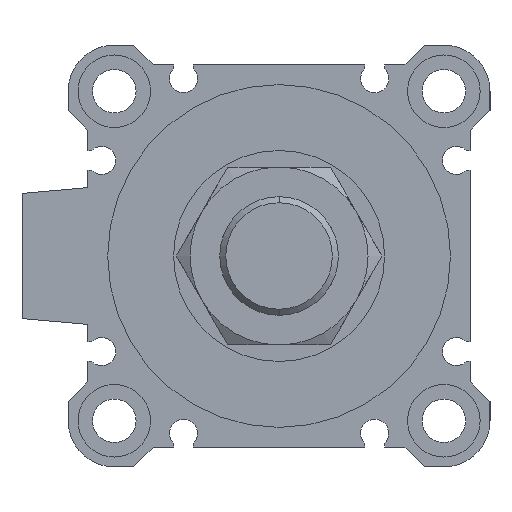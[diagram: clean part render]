
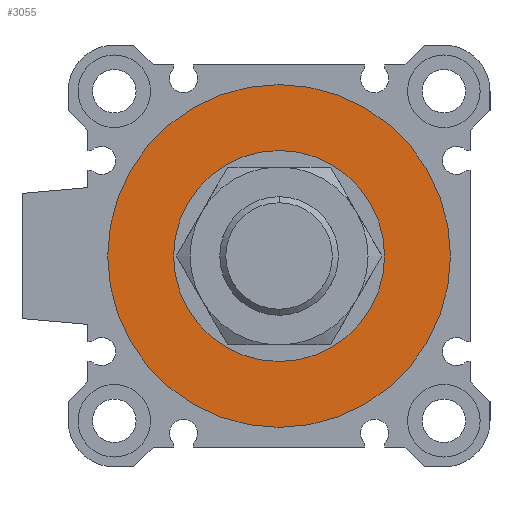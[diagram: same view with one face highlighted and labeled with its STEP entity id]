
A CAD part, left-side view. The second image highlights one B-rep face of the part: STEP entity #3055.
In plain terms, the highlighted planar face has unit normal (-1, 0, 0).
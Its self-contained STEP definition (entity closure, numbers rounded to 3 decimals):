
#6 = AXIS2_PLACEMENT_3D ( 'NONE', #7047, #2073, #5304 ) ;
#245 = CARTESIAN_POINT ( 'NONE',  ( 3., 0., 0. ) ) ;
#248 = VERTEX_POINT ( 'NONE', #4886 ) ;
#778 = CIRCLE ( 'NONE', #3928, 26. ) ;
#920 = CARTESIAN_POINT ( 'NONE',  ( 3., 0., 26. ) ) ;
#941 = PLANE ( 'NONE',  #6 ) ;
#1315 = CIRCLE ( 'NONE', #5384, 16. ) ;
#1663 = EDGE_CURVE ( 'NONE', #5150, #248, #1943, .T. ) ;
#1763 = CARTESIAN_POINT ( 'NONE',  ( 3., 0., 0. ) ) ;
#1828 = DIRECTION ( 'NONE',  ( 1., 0., 0. ) ) ;
#1858 = CARTESIAN_POINT ( 'NONE',  ( 3., 0., -16. ) ) ;
#1866 = CARTESIAN_POINT ( 'NONE',  ( 3., 0., -26. ) ) ;
#1943 = CIRCLE ( 'NONE', #4725, 16. ) ;
#2061 = ORIENTED_EDGE ( 'NONE', *, *, #6492, .F. ) ;
#2073 = DIRECTION ( 'NONE',  ( 1., 0., 0. ) ) ;
#2258 = VERTEX_POINT ( 'NONE', #920 ) ;
#2512 = VERTEX_POINT ( 'NONE', #1866 ) ;
#2576 = FACE_OUTER_BOUND ( 'NONE', #4458, .T. ) ;
#3055 = ADVANCED_FACE ( 'NONE', ( #2576, #5921 ), #941, .F. ) ;
#3204 = ORIENTED_EDGE ( 'NONE', *, *, #3717, .T. ) ;
#3481 = DIRECTION ( 'NONE',  ( 0., 0., -1. ) ) ;
#3717 = EDGE_CURVE ( 'NONE', #248, #5150, #1315, .T. ) ;
#3928 = AXIS2_PLACEMENT_3D ( 'NONE', #5207, #1828, #5706 ) ;
#3962 = CARTESIAN_POINT ( 'NONE',  ( 3., 0., 0. ) ) ;
#4375 = ORIENTED_EDGE ( 'NONE', *, *, #1663, .T. ) ;
#4458 = EDGE_LOOP ( 'NONE', ( #2061, #6059 ) ) ;
#4725 = AXIS2_PLACEMENT_3D ( 'NONE', #245, #6860, #6824 ) ;
#4886 = CARTESIAN_POINT ( 'NONE',  ( 3., 0., 16. ) ) ;
#4900 = DIRECTION ( 'NONE',  ( 1., 0., 0. ) ) ;
#5072 = DIRECTION ( 'NONE',  ( 0., 0., -1. ) ) ;
#5150 = VERTEX_POINT ( 'NONE', #1858 ) ;
#5207 = CARTESIAN_POINT ( 'NONE',  ( 3., 0., 0. ) ) ;
#5300 = AXIS2_PLACEMENT_3D ( 'NONE', #1763, #4900, #5072 ) ;
#5304 = DIRECTION ( 'NONE',  ( 0., 1., 0. ) ) ;
#5384 = AXIS2_PLACEMENT_3D ( 'NONE', #3962, #6137, #3481 ) ;
#5706 = DIRECTION ( 'NONE',  ( 0., 0., -1. ) ) ;
#5839 = EDGE_CURVE ( 'NONE', #2512, #2258, #778, .T. ) ;
#5921 = FACE_BOUND ( 'NONE', #6126, .T. ) ;
#6059 = ORIENTED_EDGE ( 'NONE', *, *, #5839, .F. ) ;
#6126 = EDGE_LOOP ( 'NONE', ( #3204, #4375 ) ) ;
#6137 = DIRECTION ( 'NONE',  ( 1., 0., 0. ) ) ;
#6492 = EDGE_CURVE ( 'NONE', #2258, #2512, #6571, .T. ) ;
#6571 = CIRCLE ( 'NONE', #5300, 26. ) ;
#6824 = DIRECTION ( 'NONE',  ( 0., 0., -1. ) ) ;
#6860 = DIRECTION ( 'NONE',  ( 1., 0., 0. ) ) ;
#7047 = CARTESIAN_POINT ( 'NONE',  ( 3., 0., 0. ) ) ;
